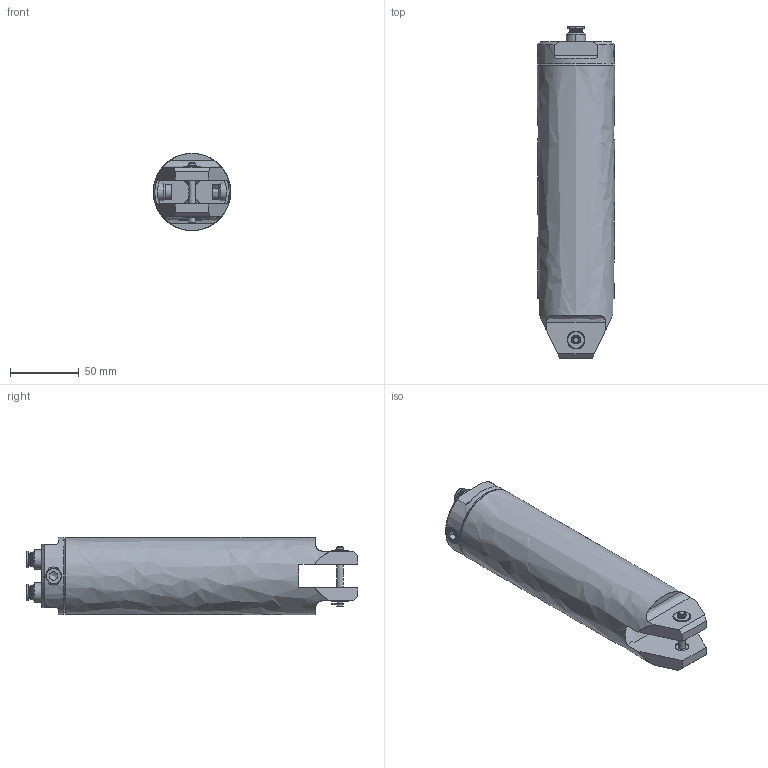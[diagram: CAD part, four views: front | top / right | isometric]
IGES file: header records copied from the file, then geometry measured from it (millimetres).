
Global section: file name: \\Kikaku_server01\kikaku\; native system: Rhinoceros ( Feb 22 2008 ); preprocessor: Trout Lake IGES 012 Feb 22 2008; date: 081001.023100; units: millimetre
Bounding box: 56 x 241.05 x 56 mm (x, y, z)
Surface area: 53524.7 mm2 (no closed solid volume)
Topology: 0 solids, 0 shells, 249 faces, 1418 edges, 1408 vertices
Faces by surface type: bspline 249
